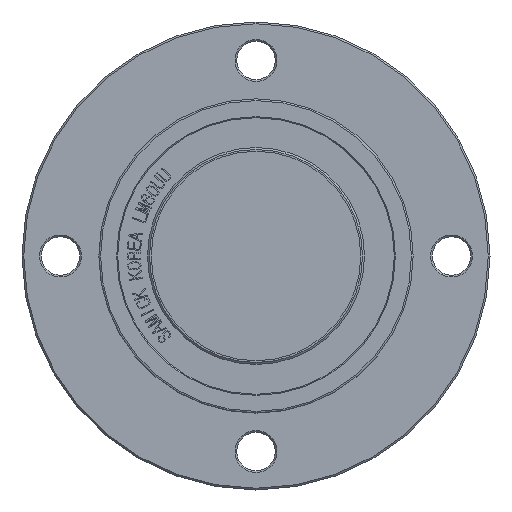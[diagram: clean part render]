
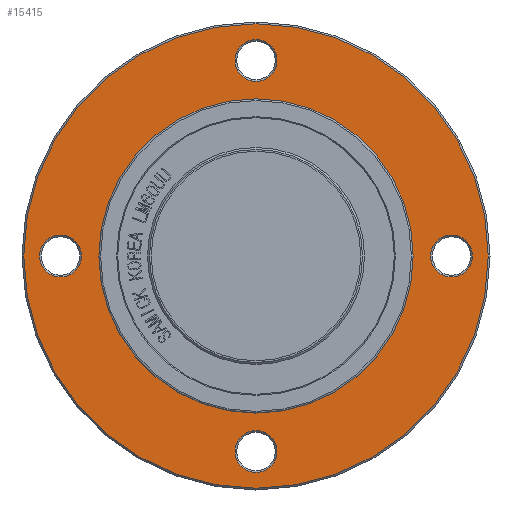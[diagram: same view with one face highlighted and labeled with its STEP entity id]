
A CAD part, front view. The second image highlights one B-rep face of the part: STEP entity #15415.
In plain terms, the highlighted planar face has unit normal (0, -1, 0).
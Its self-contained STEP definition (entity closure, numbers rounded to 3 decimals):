
#2235=FACE_BOUND('',#3381,.T.);
#2236=FACE_BOUND('',#3382,.T.);
#2237=FACE_BOUND('',#3383,.T.);
#2238=FACE_BOUND('',#3384,.T.);
#2239=FACE_BOUND('',#3385,.T.);
#2297=PLANE('',#16302);
#2522=FACE_OUTER_BOUND('',#3380,.T.);
#3380=EDGE_LOOP('',(#10626,#10627));
#3381=EDGE_LOOP('',(#10628));
#3382=EDGE_LOOP('',(#10629));
#3383=EDGE_LOOP('',(#10630,#10631));
#3384=EDGE_LOOP('',(#10632));
#3385=EDGE_LOOP('',(#10633));
#6532=CIRCLE('',#16300,6.);
#6534=CIRCLE('',#16303,66.5);
#6535=CIRCLE('',#16304,66.5);
#6536=CIRCLE('',#16305,6.);
#6537=CIRCLE('',#16306,6.);
#6538=CIRCLE('',#16307,45.);
#6539=CIRCLE('',#16308,45.);
#6540=CIRCLE('',#16309,6.);
#6614=VERTEX_POINT('',#18437);
#6616=VERTEX_POINT('',#18443);
#6617=VERTEX_POINT('',#18444);
#6618=VERTEX_POINT('',#18447);
#6619=VERTEX_POINT('',#18449);
#6620=VERTEX_POINT('',#18451);
#6621=VERTEX_POINT('',#18452);
#6622=VERTEX_POINT('',#18455);
#8220=EDGE_CURVE('',#6614,#6614,#6532,.T.);
#8223=EDGE_CURVE('',#6616,#6617,#6534,.T.);
#8224=EDGE_CURVE('',#6617,#6616,#6535,.T.);
#8225=EDGE_CURVE('',#6618,#6618,#6536,.T.);
#8226=EDGE_CURVE('',#6619,#6619,#6537,.T.);
#8227=EDGE_CURVE('',#6620,#6621,#6538,.T.);
#8228=EDGE_CURVE('',#6621,#6620,#6539,.T.);
#8229=EDGE_CURVE('',#6622,#6622,#6540,.T.);
#10626=ORIENTED_EDGE('',*,*,#8223,.T.);
#10627=ORIENTED_EDGE('',*,*,#8224,.T.);
#10628=ORIENTED_EDGE('',*,*,#8225,.F.);
#10629=ORIENTED_EDGE('',*,*,#8226,.F.);
#10630=ORIENTED_EDGE('',*,*,#8227,.F.);
#10631=ORIENTED_EDGE('',*,*,#8228,.F.);
#10632=ORIENTED_EDGE('',*,*,#8229,.F.);
#10633=ORIENTED_EDGE('',*,*,#8220,.F.);
#15415=ADVANCED_FACE('',(#2522,#2235,#2236,#2237,#2238,#2239),#2297,.T.);
#16300=AXIS2_PLACEMENT_3D('',#18438,#16655,#16656);
#16302=AXIS2_PLACEMENT_3D('',#18442,#16660,#16661);
#16303=AXIS2_PLACEMENT_3D('',#18445,#16662,#16663);
#16304=AXIS2_PLACEMENT_3D('',#18446,#16664,#16665);
#16305=AXIS2_PLACEMENT_3D('',#18448,#16666,#16667);
#16306=AXIS2_PLACEMENT_3D('',#18450,#16668,#16669);
#16307=AXIS2_PLACEMENT_3D('',#18453,#16670,#16671);
#16308=AXIS2_PLACEMENT_3D('',#18454,#16672,#16673);
#16309=AXIS2_PLACEMENT_3D('',#18456,#16674,#16675);
#16655=DIRECTION('center_axis',(0.,-1.,0.));
#16656=DIRECTION('ref_axis',(1.,0.,0.));
#16660=DIRECTION('center_axis',(0.,-1.,0.));
#16661=DIRECTION('ref_axis',(0.,0.,-1.));
#16662=DIRECTION('center_axis',(0.,-1.,0.));
#16663=DIRECTION('ref_axis',(1.,0.,0.));
#16664=DIRECTION('center_axis',(0.,-1.,0.));
#16665=DIRECTION('ref_axis',(1.,0.,0.));
#16666=DIRECTION('center_axis',(0.,-1.,0.));
#16667=DIRECTION('ref_axis',(0.,0.,-1.));
#16668=DIRECTION('center_axis',(0.,-1.,0.));
#16669=DIRECTION('ref_axis',(0.,0.,
1.));
#16670=DIRECTION('center_axis',(0.,-1.,0.));
#16671=DIRECTION('ref_axis',(1.,0.,0.));
#16672=DIRECTION('center_axis',(0.,-1.,0.));
#16673=DIRECTION('ref_axis',(1.,0.,0.));
#16674=DIRECTION('center_axis',(0.,-1.,0.));
#16675=DIRECTION('ref_axis',(-1.,0.,0.));
#18437=CARTESIAN_POINT('',(50.,69.5,0.));
#18438=CARTESIAN_POINT('Origin',(56.,69.5,0.));
#18442=CARTESIAN_POINT('Origin',(45.,69.5,0.));
#18443=CARTESIAN_POINT('',(66.5,69.5,0.));
#18444=CARTESIAN_POINT('',(-66.5,69.5,0.));
#18445=CARTESIAN_POINT('Origin',(0.,69.5,0.));
#18446=CARTESIAN_POINT('Origin',(0.,69.5,0.));
#18447=CARTESIAN_POINT('',(0.,69.5,-50.));
#18448=CARTESIAN_POINT('Origin',(0.,69.5,-56.));
#18449=CARTESIAN_POINT('',(0.,69.5,50.));
#18450=CARTESIAN_POINT('Origin',(0.,69.5,56.));
#18451=CARTESIAN_POINT('',(45.,69.5,0.));
#18452=CARTESIAN_POINT('',(-45.,69.5,0.));
#18453=CARTESIAN_POINT('Origin',(0.,69.5,0.));
#18454=CARTESIAN_POINT('Origin',(0.,69.5,0.));
#18455=CARTESIAN_POINT('',(-50.,69.5,0.));
#18456=CARTESIAN_POINT('Origin',(-56.,69.5,0.));
